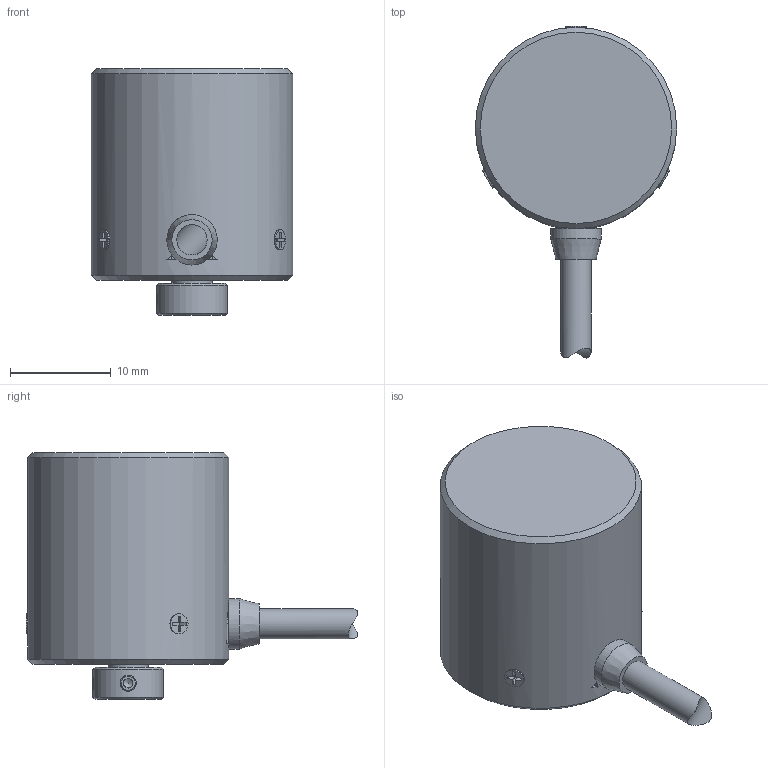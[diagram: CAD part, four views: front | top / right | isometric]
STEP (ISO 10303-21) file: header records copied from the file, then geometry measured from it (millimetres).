
FILE_DESCRIPTION(('STEP AP242'),'1');
FILE_NAME('1.stp','2022-10-24T06:32:48',(' '),(' '),'Spatial InterOp 3D',' ',' ');
FILE_SCHEMA(('AP242_MANAGED_MODEL_BASED_3D_ENGINEERING_MIM_LF {1 0 10303 442 1 1 4}'));
Length unit declared in the file: millimetre
Products named in the file (8): L3F01B MAH-17-＊＊＊□1; 018400 六角穴付止めねじ M2×2; 018211 サラ0番1種 M1.4x2.5 鉄 三価黒; 029920 10芯(3)ケーブル MA17P; - ケーブルモデルアセンブリ用; - ゴムプッシュ(φ3.0)
Assembly tree (10 placements, depth 3):
  L3F01B MAH-17-＊＊＊□1
    L3F01B MAH-17-＊＊＊□1
    018400 六角穴付止めねじ M2×2  x2
    L3F01B MAH-17-＊＊＊□1
    018211 サラ0番1種 M1.4x2.5 鉄 三価黒  x3
    029920 10芯(3)ケーブル MA17P
      - ケーブルモデルアセンブリ用
      - ゴムプッシュ(φ3.0)
Bounding box: 20 x 32.96 x 24.5 mm (x, y, z)
Volume: 6626 mm3; surface area: 2941.1 mm2
Topology: 9 solids, 9 shells, 176 faces, 411 edges, 260 vertices
Faces by surface type: plane 104, cylinder 44, cone 25, bspline 3
Full cylindrical faces by diameter (mm): 1.1 x6, 1.4 x6, 1.6 x9, 2 x6, 3 x4, 4 x1, 5 x1, 7 x1, 20 x1
Entity records: 4988 total; most frequent: CARTESIAN_POINT 1126, DIRECTION 504, ORIENTED_EDGE 400, EDGE_CURVE 200, AXIS2_PLACEMENT_3D 197, EDGE_LOOP 182, VERTEX_POINT 158, FACE_OUTER_BOUND 150
